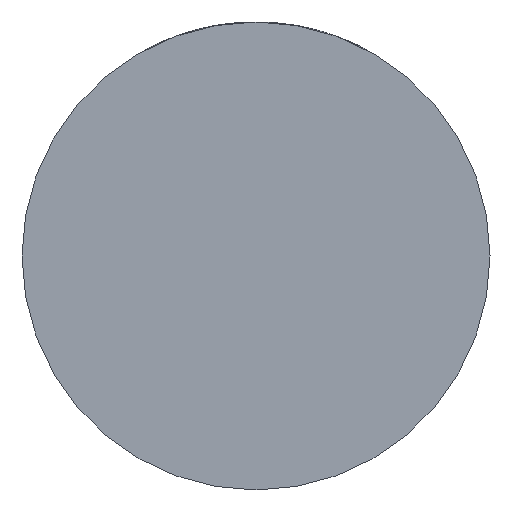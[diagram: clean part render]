
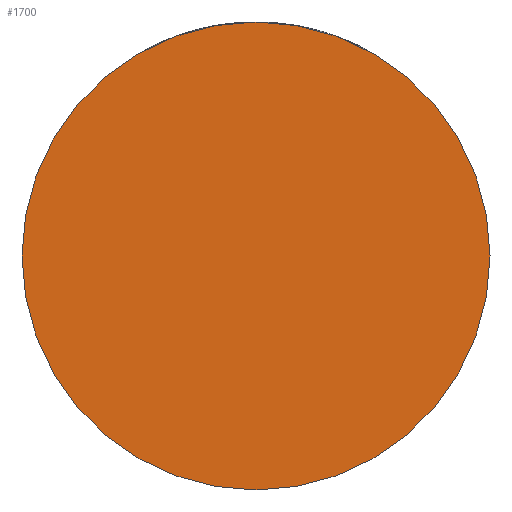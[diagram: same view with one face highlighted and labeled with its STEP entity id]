
A CAD part, front view. The second image highlights one B-rep face of the part: STEP entity #1700.
In plain terms, the highlighted planar face has unit normal (0, -1, 0).
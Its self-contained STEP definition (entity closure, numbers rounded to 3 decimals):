
#168 = DIRECTION ( 'NONE',  ( 0., -1., 0. ) ) ;
#202 = DIRECTION ( 'NONE',  ( 1., 0., 0. ) ) ;
#282 = DIRECTION ( 'NONE',  ( 1., 0., 0. ) ) ;
#347 = EDGE_LOOP ( 'NONE', ( #3790, #993 ) ) ;
#435 = AXIS2_PLACEMENT_3D ( 'NONE', #3534, #168, #1873 ) ;
#703 = CARTESIAN_POINT ( 'NONE',  ( 39., -36., 0. ) ) ;
#950 = DIRECTION ( 'NONE',  ( 0., -1., 0. ) ) ;
#993 = ORIENTED_EDGE ( 'NONE', *, *, #3704, .T. ) ;
#1115 = EDGE_CURVE ( 'NONE', #1239, #3002, #2023, .T. ) ;
#1239 = VERTEX_POINT ( 'NONE', #1729 ) ;
#1269 = CARTESIAN_POINT ( 'NONE',  ( 0., -36., 0. ) ) ;
#1304 = AXIS2_PLACEMENT_3D ( 'NONE', #2925, #3018, #202 ) ;
#1700 = ADVANCED_FACE ( 'NONE', ( #4077 ), #3432, .T. ) ;
#1729 = CARTESIAN_POINT ( 'NONE',  ( -39., -36., 0. ) ) ;
#1873 = DIRECTION ( 'NONE',  ( 1., 0., 0. ) ) ;
#2023 = CIRCLE ( 'NONE', #1304, 39. ) ;
#2925 = CARTESIAN_POINT ( 'NONE',  ( 0., -36., 0. ) ) ;
#2960 = CIRCLE ( 'NONE', #435, 39. ) ;
#3002 = VERTEX_POINT ( 'NONE', #703 ) ;
#3018 = DIRECTION ( 'NONE',  ( 0., -1., 0. ) ) ;
#3432 = PLANE ( 'NONE',  #3714 ) ;
#3534 = CARTESIAN_POINT ( 'NONE',  ( 0., -36., 0. ) ) ;
#3704 = EDGE_CURVE ( 'NONE', #3002, #1239, #2960, .T. ) ;
#3714 = AXIS2_PLACEMENT_3D ( 'NONE', #1269, #950, #282 ) ;
#3790 = ORIENTED_EDGE ( 'NONE', *, *, #1115, .T. ) ;
#4077 = FACE_OUTER_BOUND ( 'NONE', #347, .T. ) ;
